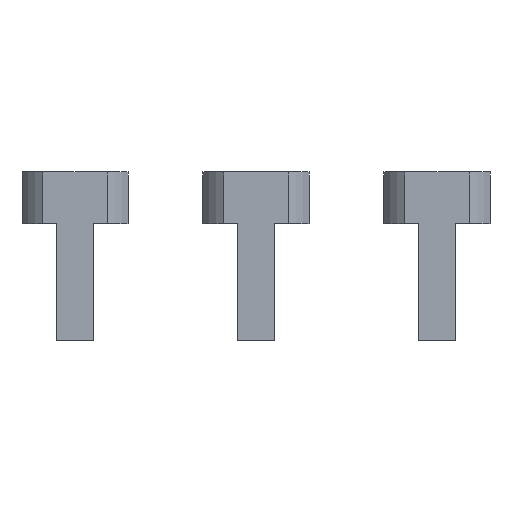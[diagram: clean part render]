
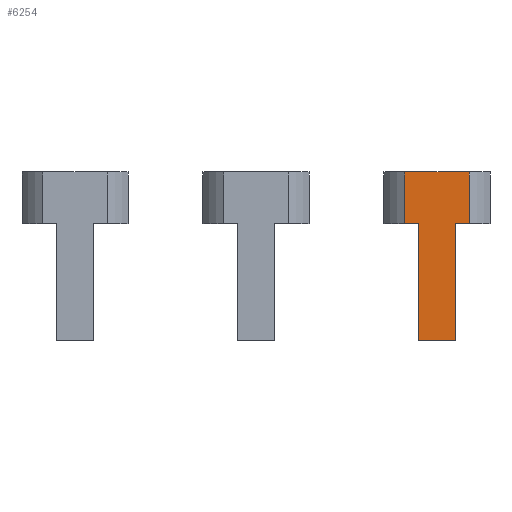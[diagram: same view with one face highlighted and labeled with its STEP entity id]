
A CAD part, front view. The second image highlights one B-rep face of the part: STEP entity #6254.
In plain terms, the highlighted planar face has unit normal (0, -1, 0).
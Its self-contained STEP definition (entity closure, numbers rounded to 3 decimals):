
#135 = EDGE_CURVE ( 'NONE', #479, #2162, #4557, .T. ) ;
#170 = ORIENTED_EDGE ( 'NONE', *, *, #2450, .F. ) ;
#229 = DIRECTION ( 'NONE',  ( -1., 0., 0. ) ) ;
#455 = DIRECTION ( 'NONE',  ( 0., 0., 1. ) ) ;
#479 = VERTEX_POINT ( 'NONE', #5506 ) ;
#488 = EDGE_CURVE ( 'NONE', #5241, #4704, #4065, .T. ) ;
#600 = DIRECTION ( 'NONE',  ( -1., 0., 0. ) ) ;
#1041 = CARTESIAN_POINT ( 'NONE',  ( 57.52, -195.4, -48. ) ) ;
#1131 = DIRECTION ( 'NONE',  ( 0., 0., -1. ) ) ;
#1236 = ORIENTED_EDGE ( 'NONE', *, *, #5014, .T. ) ;
#1543 = CARTESIAN_POINT ( 'NONE',  ( 57.52, -195.4, 17. ) ) ;
#1912 = EDGE_CURVE ( 'NONE', #6704, #6960, #4919, .T. ) ;
#2068 = DIRECTION ( 'NONE',  ( 0., 0., 1. ) ) ;
#2072 = VECTOR ( 'NONE', #4078, 1000. ) ;
#2162 = VERTEX_POINT ( 'NONE', #7364 ) ;
#2239 = FACE_OUTER_BOUND ( 'NONE', #7783, .T. ) ;
#2301 = DIRECTION ( 'NONE',  ( -1., 0., 0. ) ) ;
#2308 = CARTESIAN_POINT ( 'NONE',  ( 77., -195.4, -3. ) ) ;
#2352 = ORIENTED_EDGE ( 'NONE', *, *, #5580, .F. ) ;
#2397 = VECTOR ( 'NONE', #455, 1000. ) ;
#2450 = EDGE_CURVE ( 'NONE', #2162, #6008, #3502, .T. ) ;
#2516 = LINE ( 'NONE', #4745, #4653 ) ;
#2643 = VECTOR ( 'NONE', #229, 1000. ) ;
#2675 = VECTOR ( 'NONE', #2068, 1000. ) ;
#3147 = CARTESIAN_POINT ( 'NONE',  ( 57.52, -195.4, -3. ) ) ;
#3167 = EDGE_CURVE ( 'NONE', #4704, #479, #2516, .T. ) ;
#3238 = EDGE_CURVE ( 'NONE', #6704, #5241, #4741, .T. ) ;
#3502 = LINE ( 'NONE', #5825, #2643 ) ;
#3685 = CARTESIAN_POINT ( 'NONE',  ( 77., -195.4, -48. ) ) ;
#3907 = CARTESIAN_POINT ( 'NONE',  ( 63., -195.4, -48. ) ) ;
#4038 = CARTESIAN_POINT ( 'NONE',  ( 57.52, -195.4, -48. ) ) ;
#4054 = AXIS2_PLACEMENT_3D ( 'NONE', #1041, #5357, #2301 ) ;
#4065 = LINE ( 'NONE', #3685, #7593 ) ;
#4078 = DIRECTION ( 'NONE',  ( -1., 0., 0. ) ) ;
#4495 = ORIENTED_EDGE ( 'NONE', *, *, #1912, .T. ) ;
#4557 = LINE ( 'NONE', #3907, #6188 ) ;
#4587 = LINE ( 'NONE', #1543, #2072 ) ;
#4653 = VECTOR ( 'NONE', #5887, 1000. ) ;
#4704 = VERTEX_POINT ( 'NONE', #6658 ) ;
#4731 = CARTESIAN_POINT ( 'NONE',  ( 77., -195.4, -3. ) ) ;
#4741 = LINE ( 'NONE', #2308, #6932 ) ;
#4745 = CARTESIAN_POINT ( 'NONE',  ( 57.52, -195.4, -48. ) ) ;
#4919 = LINE ( 'NONE', #7744, #2397 ) ;
#5014 = EDGE_CURVE ( 'NONE', #6960, #7557, #4587, .T. ) ;
#5225 = PLANE ( 'NONE',  #4054 ) ;
#5241 = VERTEX_POINT ( 'NONE', #4731 ) ;
#5357 = DIRECTION ( 'NONE',  ( 0., 1., 0. ) ) ;
#5506 = CARTESIAN_POINT ( 'NONE',  ( 63., -195.4, -48. ) ) ;
#5534 = DIRECTION ( 'NONE',  ( 0., 0., 1. ) ) ;
#5580 = EDGE_CURVE ( 'NONE', #6008, #7557, #7574, .T. ) ;
#5825 = CARTESIAN_POINT ( 'NONE',  ( 63., -195.4, -3. ) ) ;
#5843 = ORIENTED_EDGE ( 'NONE', *, *, #3167, .F. ) ;
#5887 = DIRECTION ( 'NONE',  ( -1., 0., 0. ) ) ;
#6008 = VERTEX_POINT ( 'NONE', #3147 ) ;
#6137 = ORIENTED_EDGE ( 'NONE', *, *, #135, .F. ) ;
#6188 = VECTOR ( 'NONE', #5534, 1000. ) ;
#6254 = ADVANCED_FACE ( 'NONE', ( #2239 ), #5225, .F. ) ;
#6468 = CARTESIAN_POINT ( 'NONE',  ( 57.52, -195.4, 17. ) ) ;
#6658 = CARTESIAN_POINT ( 'NONE',  ( 77., -195.4, -48. ) ) ;
#6704 = VERTEX_POINT ( 'NONE', #6859 ) ;
#6859 = CARTESIAN_POINT ( 'NONE',  ( 82.48, -195.4, -3. ) ) ;
#6932 = VECTOR ( 'NONE', #600, 1000. ) ;
#6944 = ORIENTED_EDGE ( 'NONE', *, *, #3238, .F. ) ;
#6960 = VERTEX_POINT ( 'NONE', #6974 ) ;
#6974 = CARTESIAN_POINT ( 'NONE',  ( 82.48, -195.4, 17. ) ) ;
#7364 = CARTESIAN_POINT ( 'NONE',  ( 63., -195.4, -3. ) ) ;
#7557 = VERTEX_POINT ( 'NONE', #6468 ) ;
#7574 = LINE ( 'NONE', #4038, #2675 ) ;
#7593 = VECTOR ( 'NONE', #1131, 1000. ) ;
#7708 = ORIENTED_EDGE ( 'NONE', *, *, #488, .F. ) ;
#7744 = CARTESIAN_POINT ( 'NONE',  ( 82.48, -195.4, -48. ) ) ;
#7783 = EDGE_LOOP ( 'NONE', ( #5843, #7708, #6944, #4495, #1236, #2352, #170, #6137 ) ) ;
